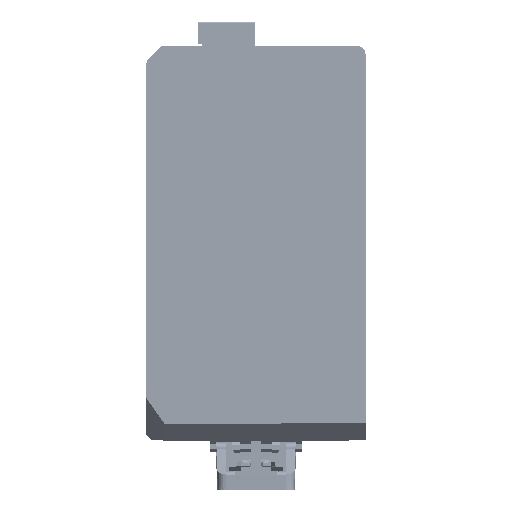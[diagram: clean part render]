
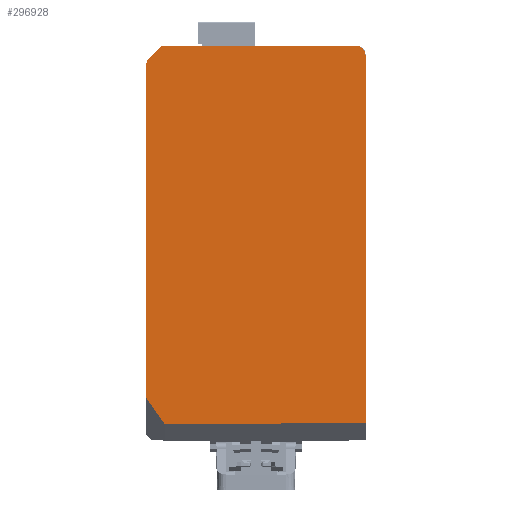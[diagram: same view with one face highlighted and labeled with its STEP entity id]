
A CAD part, front view. The second image highlights one B-rep face of the part: STEP entity #296928.
In plain terms, the highlighted planar face has unit normal (-0.005, -1, 0).
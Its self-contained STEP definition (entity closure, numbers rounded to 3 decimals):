
#289859=DIRECTION('',(-1.,0.005,0.));
#289860=VECTOR('',#289859,31.486);
#289861=CARTESIAN_POINT('',(25.4,-40.492,2.5));
#289862=LINE('',#289861,#289860);
#289895=DIRECTION('',(0.707,-0.004,0.707));
#289896=VECTOR('',#289895,2.707);
#289897=CARTESIAN_POINT('',(-8.707,-40.313,
0.293));
#289898=LINE('',#289897,#289896);
#289899=CARTESIAN_POINT('',(-6.793,-40.323,
2.207));
#289900=CARTESIAN_POINT('',(-6.598,-40.324,
2.402));
#289901=CARTESIAN_POINT('',(-6.362,-40.325,2.5));
#289902=CARTESIAN_POINT('',(-6.086,-40.327,2.5));
#289904=CARTESIAN_POINT('',(25.4,-40.492,2.5));
#289905=CARTESIAN_POINT('',(25.667,-40.493,2.5));
#289906=CARTESIAN_POINT('',(26.084,-40.495,
2.384));
#289907=CARTESIAN_POINT('',(26.555,-40.498,
2.055));
#289908=CARTESIAN_POINT('',(26.884,-40.499,
1.584));
#289909=CARTESIAN_POINT('',(27.,-40.5,1.167));
#289910=CARTESIAN_POINT('',(27.,-40.5,0.9));
#289912=DIRECTION('',(0.,0.,-1.));
#289913=VECTOR('',#289912,60.4);
#289914=CARTESIAN_POINT('',(27.,-40.5,0.9));
#289915=LINE('',#289914,#289913);
#289916=DIRECTION('',(-1.,0.005,-0.005));
#289917=VECTOR('',#289916,33.001);
#289918=CARTESIAN_POINT('',(27.,-40.5,-59.5));
#289919=LINE('',#289918,#289917);
#289920=DIRECTION('',(0.,0.,1.));
#289921=VECTOR('',#289920,55.032);
#289922=CARTESIAN_POINT('',(-9.,-40.312,-55.446));
#289923=LINE('',#289922,#289921);
#289924=CARTESIAN_POINT('',(-9.,-40.312,-0.414));
#289925=CARTESIAN_POINT('',(-9.,-40.312,-0.138));
#289926=CARTESIAN_POINT('',(-8.902,-40.312,
0.098));
#289927=CARTESIAN_POINT('',(-8.707,-40.313,
0.293));
#289929=DIRECTION('',(0.579,-0.003,-0.815));
#289930=VECTOR('',#289929,5.183);
#289931=CARTESIAN_POINT('',(-9.,-40.312,-55.446));
#289932=LINE('',#289931,#289930);
#293486=CARTESIAN_POINT('',(-9.,-40.312,-55.446));
#293488=VERTEX_POINT('',#293486);
#293628=CARTESIAN_POINT('',(-8.707,-40.313,
0.293));
#293630=VERTEX_POINT('',#293628);
#293632=VERTEX_POINT('',#289924);
#293635=CARTESIAN_POINT('',(-6.086,-40.327,2.5));
#293637=VERTEX_POINT('',#293635);
#293639=VERTEX_POINT('',#289899);
#293642=CARTESIAN_POINT('',(25.4,-40.492,2.5));
#293643=VERTEX_POINT('',#293642);
#293646=CARTESIAN_POINT('',(27.,-40.5,0.9));
#293648=VERTEX_POINT('',#293646);
#293651=CARTESIAN_POINT('',(27.,-40.5,-59.5));
#293653=VERTEX_POINT('',#293651);
#293664=CARTESIAN_POINT('',(-6.,-40.327,-59.673));
#293666=VERTEX_POINT('',#293664);
#296911=CARTESIAN_POINT('',(9.,-40.406,-28.586));
#296912=DIRECTION('',(0.005,1.,0.));
#296913=DIRECTION('',(0.,0.,-1.));
#296914=AXIS2_PLACEMENT_3D('',#296911,#296912,#296913);
#296915=PLANE('',#296914);
#296916=ORIENTED_EDGE('',*,*,#296809,.T.);
#296917=ORIENTED_EDGE('',*,*,#296824,.T.);
#296918=ORIENTED_EDGE('',*,*,#296839,.F.);
#296919=ORIENTED_EDGE('',*,*,#296854,.T.);
#296920=ORIENTED_EDGE('',*,*,#296869,.T.);
#296921=ORIENTED_EDGE('',*,*,#296897,.T.);
#296923=ORIENTED_EDGE('',*,*,#296922,.F.);
#296924=ORIENTED_EDGE('',*,*,#296612,.T.);
#296925=ORIENTED_EDGE('',*,*,#296794,.T.);
#296926=EDGE_LOOP('',(#296916,#296917,#296918,#296919,#296920,#296921,#296923,
#296924,#296925));
#296927=FACE_OUTER_BOUND('',#296926,.F.);
#296928=ADVANCED_FACE('',(#296927),#296915,.F.);
#289903=B_SPLINE_CURVE_WITH_KNOTS('',3,(#289899,#289900,#289901,#289902),
.UNSPECIFIED.,.F.,.F.,(4,4),(0.,1.),.UNSPECIFIED.);
#289911=B_SPLINE_CURVE_WITH_KNOTS('',3,(#289904,#289905,#289906,#289907,#289908,
#289909,#289910),.UNSPECIFIED.,.F.,.F.,(4,1,1,1,4),(0.,0.25,0.5,0.75,
1.),.UNSPECIFIED.);
#289928=B_SPLINE_CURVE_WITH_KNOTS('',3,(#289924,#289925,#289926,#289927),
.UNSPECIFIED.,.F.,.F.,(4,4),(0.,1.),.UNSPECIFIED.);
#296612=EDGE_CURVE('',#293488,#293632,#289923,.T.);
#296794=EDGE_CURVE('',#293632,#293630,#289928,.T.);
#296809=EDGE_CURVE('',#293630,#293639,#289898,.T.);
#296824=EDGE_CURVE('',#293639,#293637,#289903,.T.);
#296839=EDGE_CURVE('',#293643,#293637,#289862,.T.);
#296854=EDGE_CURVE('',#293643,#293648,#289911,.T.);
#296869=EDGE_CURVE('',#293648,#293653,#289915,.T.);
#296897=EDGE_CURVE('',#293653,#293666,#289919,.T.);
#296922=EDGE_CURVE('',#293488,#293666,#289932,.T.);
